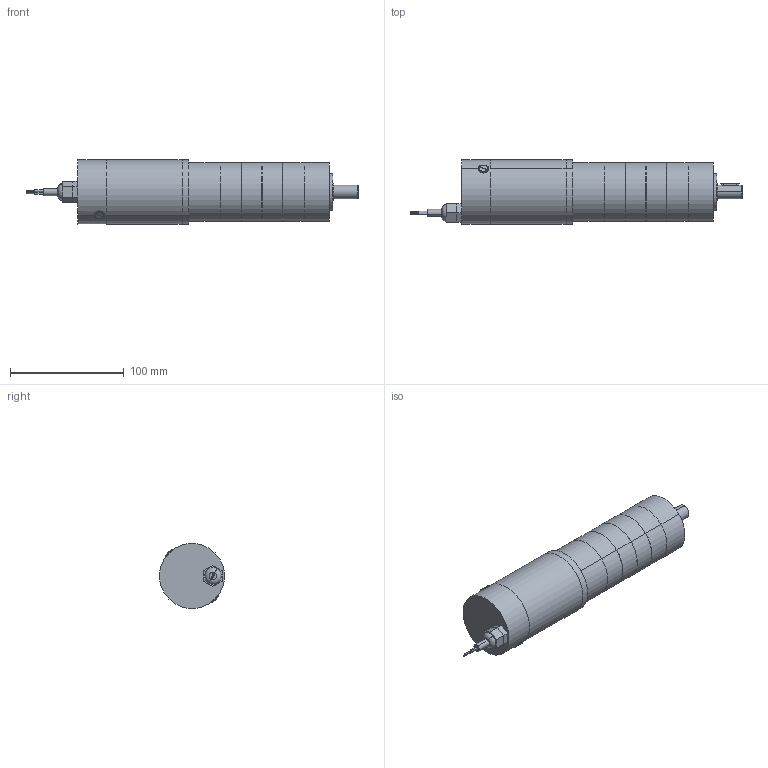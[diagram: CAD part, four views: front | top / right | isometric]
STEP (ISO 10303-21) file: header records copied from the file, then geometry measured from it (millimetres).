
FILE_DESCRIPTION (( 'STEP AP203' ), '1' );
FILE_NAME ('tm57gp4.step', '2022-05-11T15:34:18', ( '' ), ( '' ), 'SwSTEP 2.0', 'SolidWorks 2017', '' );
FILE_SCHEMA (( 'CONFIG_CONTROL_DESIGN' ));
Length unit declared in the file: millimetre
Products named in the file (1): tm57gp4
Bounding box: 291.56 x 56.93 x 56.93 mm (x, y, z)
Volume: 517135.1 mm3; surface area: 87175.7 mm2
Topology: 18 solids, 18 shells, 352 faces, 749 edges, 466 vertices
Faces by surface type: plane 159, cylinder 138, cone 45, torus 6, sphere 4
Entity records: 9723 total; most frequent: DIRECTION 1802, CARTESIAN_POINT 1756, ORIENTED_EDGE 1482, EDGE_CURVE 741, AXIS2_PLACEMENT_3D 716, VERTEX_POINT 466, EDGE_LOOP 415, VECTOR 370
